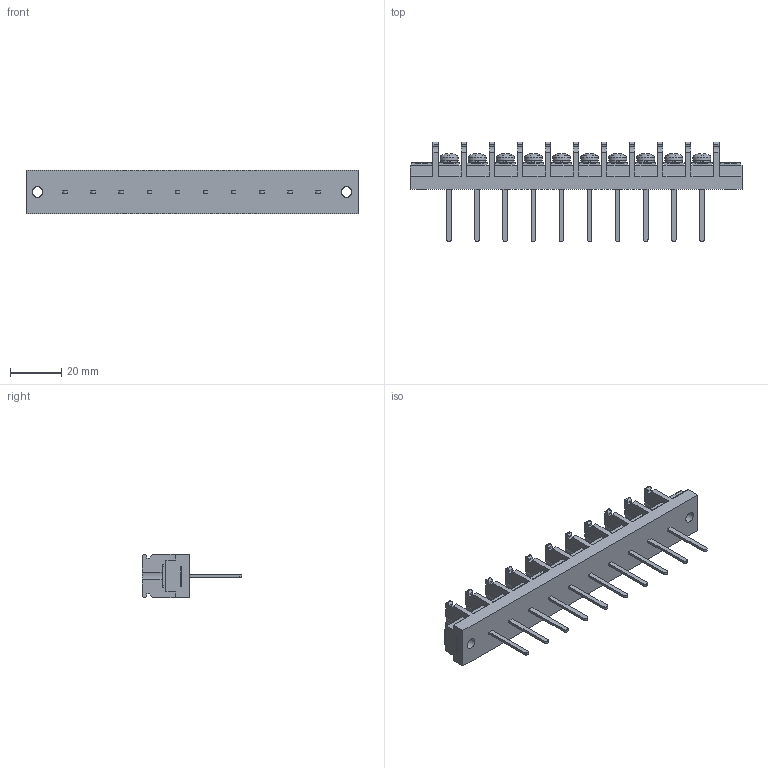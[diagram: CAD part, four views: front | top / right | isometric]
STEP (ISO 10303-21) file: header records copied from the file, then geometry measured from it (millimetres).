
FILE_DESCRIPTION(/* description */ ('Alibre Inc.'),/* implementation_level */ '2;1');
FILE_NAME(/* name */ 'export0',/* time_stamp */ '2015-10-20T07:58:01+09:00',/* author */ (''),/* organization */ (''),/* preprocessor_version */ 'ST-DEVELOPER v14',/* originating_system */ 'Alibre',/* authorisation */ '');
FILE_SCHEMA (('CONFIG_CONTROL_DESIGN'));
Length unit declared in the file: centimetre
Products named in the file (1): ID_1
Bounding box: 130 x 39 x 17 mm (x, y, z)
Volume: 23913.9 mm3; surface area: 14109.7 mm2
Topology: 1 solids, 1 shells, 1194 faces, 3326 edges, 2208 vertices
Faces by surface type: plane 838, cylinder 182, bspline 104, cone 40, torus 20, sphere 10
Full cylindrical faces by diameter (mm): 4 x12, 4.2 x2, 6.5 x10, 7 x10
Entity records: 37055 total; most frequent: CARTESIAN_POINT 7846, ORIENTED_EDGE 6500, DIRECTION 4929, EDGE_CURVE 3250, VECTOR 2287, LINE 2287, VERTEX_POINT 2176, AXIS2_PLACEMENT_3D 1735
